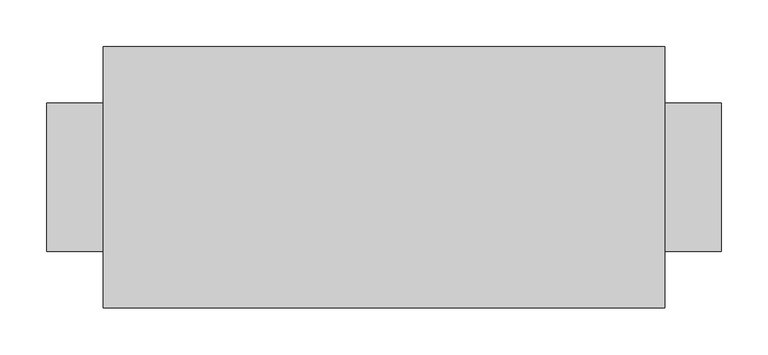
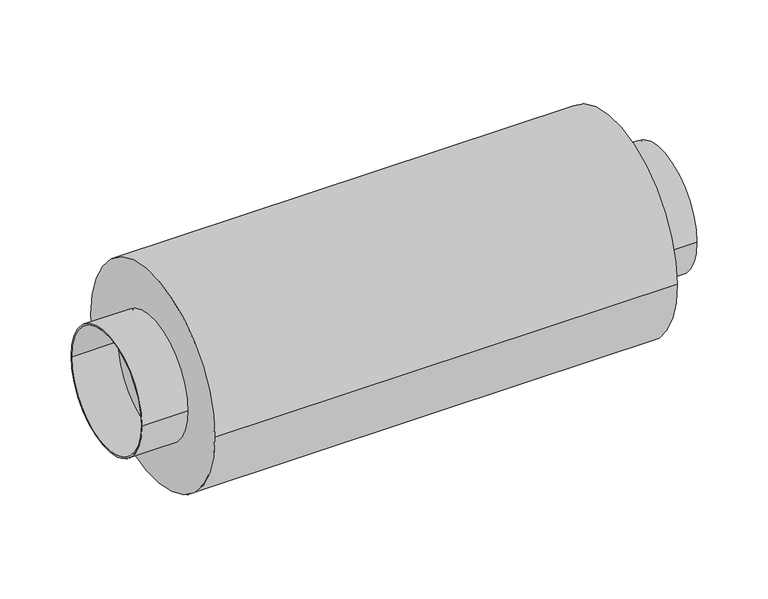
"""IFC4 building model written with IfcOpenShell, lengths in millimetres: damper geometry, СВ_Шумоглушитель_КанальныйКруглый_DN100-315_SHK : SHK-160/600."""

from ifc_helpers import new_model, si_unit, point, frame, origin, origin_2d, place, context, project, spatial, circle_curve, trimmed, segment, composite_curve, outline, extrude, source, transform, mapped, element, save


def damper_0c81a020(model_context):
    return source(origin(), model_context, "Body", "SweptSolid", [
        extrude(outline(composite_curve([segment(trimmed(circle_curve(origin_2d(), 139.5), [point((-139.5, 0.0))], [point((139.5, 0.0))], False, "CARTESIAN"), True, "CONTINUOUS"), segment(trimmed(circle_curve(origin_2d(), 139.5), [point((139.5, 0.0))], [point((-139.5, 0.0))], False, "CARTESIAN"), True, "CONTINUOUS")], self_intersect=False)), frame((-300.0, 0.0, 0.0), z_axis=(1.0, 0.0, 0.0), x_axis=(0.0, 1.0, 0.0)), (0.0, 0.0, 1.0), 600.0),
        extrude(outline(composite_curve([segment(trimmed(circle_curve(origin_2d(), 79.5), [point((-79.5, 0.0))], [point((79.5, 0.0))], False, "CARTESIAN"), True, "CONTINUOUS"), segment(trimmed(circle_curve(origin_2d(), 79.5), [point((79.5, 0.0))], [point((-79.5, 0.0))], False, "CARTESIAN"), True, "CONTINUOUS")], self_intersect=False), holes=[composite_curve([segment(trimmed(circle_curve(origin_2d(), 77.5), [point((-77.5, 0.0))], [point((77.5, 0.0))], True, "CARTESIAN"), True, "CONTINUOUS"), segment(trimmed(circle_curve(origin_2d(), 77.5), [point((77.5, 0.0))], [point((-77.5, 0.0))], True, "CARTESIAN"), True, "CONTINUOUS")], self_intersect=False)]), frame((-360.0, 0.0, 0.0), z_axis=(1.0, 0.0, 0.0), x_axis=(0.0, 1.0, 0.0)), (0.0, 0.0, 1.0), 60.0),
        extrude(outline(composite_curve([segment(trimmed(circle_curve(origin_2d(), 79.5), [point((-79.5, 0.0))], [point((79.5, 0.0))], False, "CARTESIAN"), True, "CONTINUOUS"), segment(trimmed(circle_curve(origin_2d(), 79.5), [point((79.5, 0.0))], [point((-79.5, 0.0))], False, "CARTESIAN"), True, "CONTINUOUS")], self_intersect=False), holes=[composite_curve([segment(trimmed(circle_curve(origin_2d(), 77.5), [point((-77.5, 0.0))], [point((77.5, 0.0))], True, "CARTESIAN"), True, "CONTINUOUS"), segment(trimmed(circle_curve(origin_2d(), 77.5), [point((77.5, 0.0))], [point((-77.5, 0.0))], True, "CARTESIAN"), True, "CONTINUOUS")], self_intersect=False)]), frame((300.0, 0.0, 0.0), z_axis=(1.0, 0.0, 0.0), x_axis=(0.0, 1.0, 0.0)), (0.0, 0.0, 1.0), 60.0),
    ])


if __name__ == "__main__":
    model = new_model("IFC4")
    model_context = context("Model", 3, world=origin())
    ifc_project = project(units=[si_unit("LENGTHUNIT", "METRE", prefix="MILLI")], contexts=[model_context])
    site = spatial("IfcSite", under=ifc_project)
    building = spatial("IfcBuilding", under=site)
    placement = place(None, origin())
    damper_shape = damper_0c81a020(model_context)
    element("IfcDamper", 1, ObjectType="СВ_Шумоглушитель_КанальныйКруглый_DN100-315_SHK : SHK-160/600", at=placement, inside=building, context=model_context, shape_type="MappedRepresentation", body=[
        mapped(damper_shape, transform((0.0, 0.0, 0.0), x_axis=(1.0, 0.0, 0.0), y_axis=(0.0, 1.0, 0.0), z_axis=(0.0, 0.0, 1.0))),
    ])
    save(model, "model.ifc")
